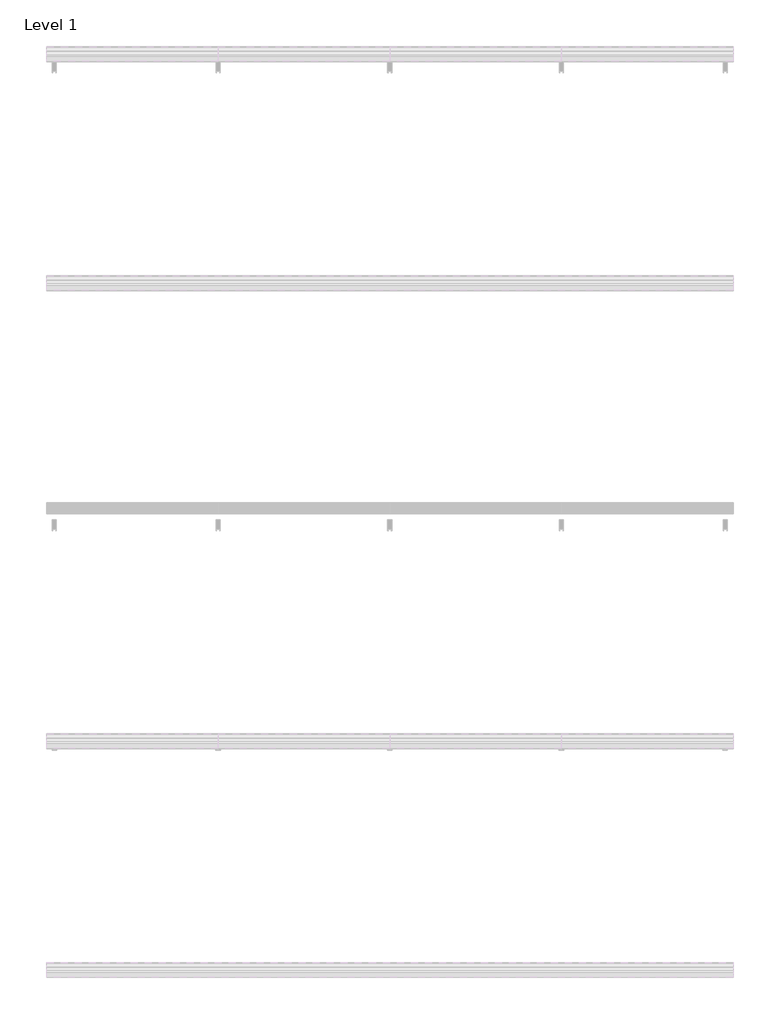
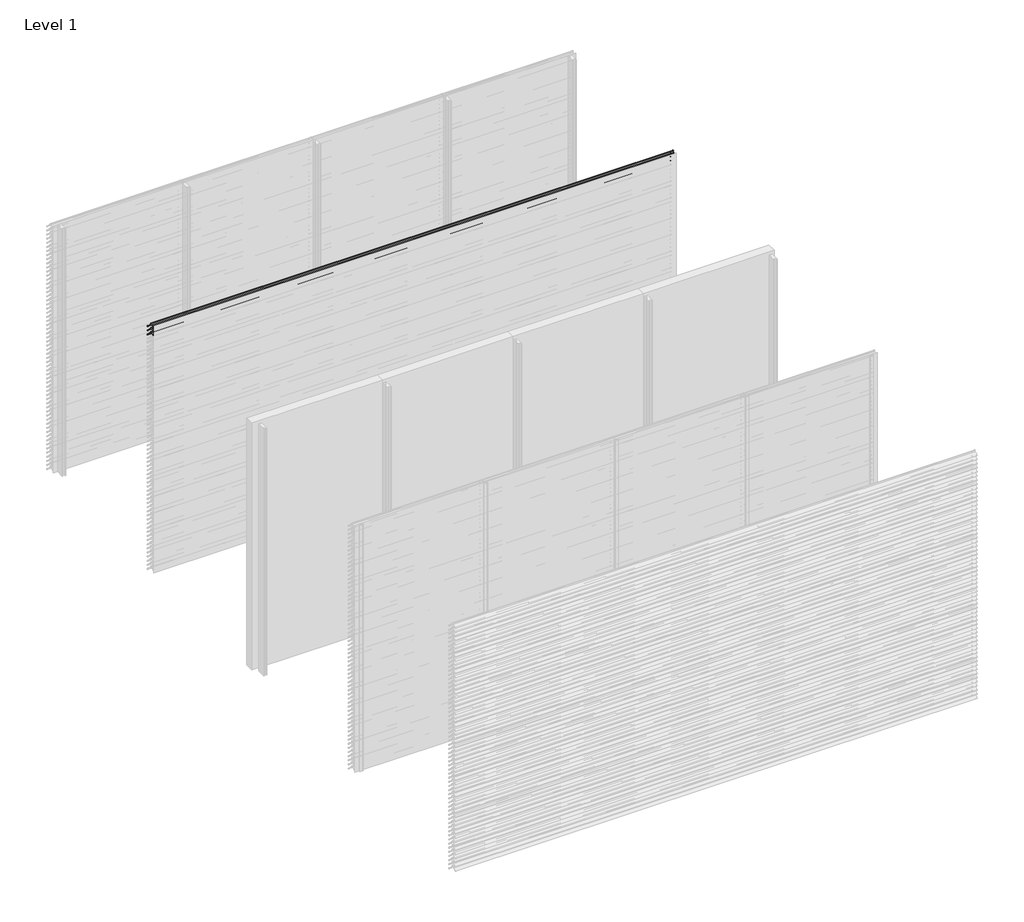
# One storey, part 105 of 173: 18 proxies.
"""IFC4 building model written with IfcOpenShell, lengths in millimetres."""

from ifc_helpers import new_model, si_unit, point, frame, frame_2d, origin, place, context, project, spatial, polyline, circle_curve, trimmed, segment, composite_curve, outline, extrude, element, save

model = new_model("IFC4")

# Units and contexts
model_context = context("Model", 3, world=origin())
ifc_project = project(units=[si_unit("LENGTHUNIT", "METRE", prefix="MILLI")], contexts=[model_context])

# Site, building, storey
site = spatial("IfcSite", under=ifc_project)
building = spatial("IfcBuilding", under=site)
storey = spatial("IfcBuildingStorey", under=building, Name="Level 1", Elevation=0.0)

# Proxies
placement = place(None, origin())
element("IfcBuildingElementProxy", 1, Name="Wall Sweeps", at=placement, inside=storey, context=model_context, shape_type="SweptSolid", body=[
    extrude(outline(composite_curve([segment(polyline([(-19998.0, 2959.1474905), (-19998.0, 2961.6227417)]), True, "CONTINUOUS"), segment(trimmed(circle_curve(frame_2d((-19951.2682172, 2916.2200208)), 65.1557103), [point((-19998.0, 2961.6227417))], [point((-19954.4014323, 2981.3003524))], False, "CARTESIAN"), True, "CONTINUOUS"), segment(polyline([(-19954.4014323, 2981.3003524), (-19934.8315836, 2981.3003524)]), True, "CONTINUOUS"), segment(trimmed(circle_curve(frame_2d((-19732.7329489, 3128.5533172)), 250.0545817), [point((-19934.8315836, 2981.3003524))], [point((-19941.4452143, 2990.8344583))], False, "CARTESIAN"), True, "CONTINUOUS"), segment(trimmed(circle_curve(frame_2d((-19953.2981792, 2985.1737835)), 13.1352966), [point((-19941.4452143, 2990.8344583))], [point((-19953.8171475, 2998.298824))], True, "CARTESIAN"), True, "CONTINUOUS"), segment(polyline([(-19953.8171475, 2998.298824), (-19953.8171475, 3000.0)]), True, "CONTINUOUS"), segment(trimmed(circle_curve(frame_2d((-19953.2981792, 2985.1737835)), 14.8352966), [point((-19953.8171475, 3000.0))], [point((-19939.9637661, 2991.6760487))], False, "CARTESIAN"), True, "CONTINUOUS"), segment(trimmed(circle_curve(frame_2d((-19732.7329489, 3128.5533172)), 248.3545817), [point((-19939.9637661, 2991.6760487))], [point((-19873.8787895, 2924.2059416))], True, "CARTESIAN"), True, "CONTINUOUS"), segment(trimmed(circle_curve(frame_2d((-19883.8147537, 2911.6649442)), 16.0), [point((-19873.8787895, 2924.2059416))], [point((-19867.8648347, 2910.4))], False, "CARTESIAN"), True, "CONTINUOUS"), segment(polyline([(-19867.8648347, 2910.4), (-19869.6712069, 2910.4)]), True, "CONTINUOUS"), segment(trimmed(circle_curve(frame_2d((-19883.8147537, 2911.6649442)), 14.2), [point((-19869.6712069, 2910.4))], [point((-19874.9518628, 2922.7594998))], True, "CARTESIAN"), True, "CONTINUOUS"), segment(trimmed(circle_curve(frame_2d((-19732.7329489, 3128.5533172)), 250.1545817), [point((-19874.9518628, 2922.7594998))], [point((-19933.7064024, 2979.6003524))], False, "CARTESIAN"), True, "CONTINUOUS"), segment(polyline([(-19933.7064024, 2979.6003524), (-19954.3602632, 2979.6003524)]), True, "CONTINUOUS"), segment(trimmed(circle_curve(frame_2d((-19951.2682172, 2916.2200208)), 63.4557103), [point((-19954.3602632, 2979.6003524))], [point((-19998.0, 2959.1474905))], True, "CARTESIAN"), True, "CONTINUOUS")], self_intersect=False)), frame((0.0, 0.0, 0.0), z_axis=(1.0, 0.0, 0.0), x_axis=(0.0, 1.0, 0.0)), (0.0, 0.0, 1.0), 6000.0),
])
element("IfcBuildingElementProxy", 2, Name="Wall Sweeps", at=placement, inside=storey, context=model_context, shape_type="SweptSolid", body=[
    extrude(outline(composite_curve([segment(polyline([(-19998.0, 2909.1474905), (-19998.0, 2911.6227417)]), True, "CONTINUOUS"), segment(trimmed(circle_curve(frame_2d((-19951.2682172, 2866.2200208)), 65.1557103), [point((-19998.0, 2911.6227417))], [point((-19954.4014323, 2931.3003524))], False, "CARTESIAN"), True, "CONTINUOUS"), segment(polyline([(-19954.4014323, 2931.3003524), (-19934.8315836, 2931.3003524)]), True, "CONTINUOUS"), segment(trimmed(circle_curve(frame_2d((-19732.7329489, 3078.5533172)), 250.0545817), [point((-19934.8315836, 2931.3003524))], [point((-19941.4452143, 2940.8344583))], False, "CARTESIAN"), True, "CONTINUOUS"), segment(trimmed(circle_curve(frame_2d((-19953.2981792, 2935.1737835)), 13.1352966), [point((-19941.4452143, 2940.8344583))], [point((-19953.8171475, 2948.298824))], True, "CARTESIAN"), True, "CONTINUOUS"), segment(polyline([(-19953.8171475, 2948.298824), (-19953.8171475, 2950.0)]), True, "CONTINUOUS"), segment(trimmed(circle_curve(frame_2d((-19953.2981792, 2935.1737835)), 14.8352966), [point((-19953.8171475, 2950.0))], [point((-19939.9637661, 2941.6760487))], False, "CARTESIAN"), True, "CONTINUOUS"), segment(trimmed(circle_curve(frame_2d((-19732.7329489, 3078.5533172)), 248.3545817), [point((-19939.9637661, 2941.6760487))], [point((-19873.8787895, 2874.2059416))], True, "CARTESIAN"), True, "CONTINUOUS"), segment(trimmed(circle_curve(frame_2d((-19883.8147537, 2861.6649442)), 16.0), [point((-19873.8787895, 2874.2059416))], [point((-19867.8648347, 2860.4))], False, "CARTESIAN"), True, "CONTINUOUS"), segment(polyline([(-19867.8648347, 2860.4), (-19869.6712069, 2860.4)]), True, "CONTINUOUS"), segment(trimmed(circle_curve(frame_2d((-19883.8147537, 2861.6649442)), 14.2), [point((-19869.6712069, 2860.4))], [point((-19874.9518628, 2872.7594998))], True, "CARTESIAN"), True, "CONTINUOUS"), segment(trimmed(circle_curve(frame_2d((-19732.7329489, 3078.5533172)), 250.1545817), [point((-19874.9518628, 2872.7594998))], [point((-19933.7064024, 2929.6003524))], False, "CARTESIAN"), True, "CONTINUOUS"), segment(polyline([(-19933.7064024, 2929.6003524), (-19954.3602632, 2929.6003524)]), True, "CONTINUOUS"), segment(trimmed(circle_curve(frame_2d((-19951.2682172, 2866.2200208)), 63.4557103), [point((-19954.3602632, 2929.6003524))], [point((-19998.0, 2909.1474905))], True, "CARTESIAN"), True, "CONTINUOUS")], self_intersect=False)), frame((0.0, 0.0, 0.0), z_axis=(1.0, 0.0, 0.0), x_axis=(0.0, 1.0, 0.0)), (0.0, 0.0, 1.0), 6000.0),
])
element("IfcBuildingElementProxy", 3, Name="Wall Sweeps", at=placement, inside=storey, context=model_context, shape_type="SweptSolid", body=[
    extrude(outline(composite_curve([segment(polyline([(-19998.0, 2859.1474905), (-19998.0, 2861.6227417)]), True, "CONTINUOUS"), segment(trimmed(circle_curve(frame_2d((-19951.2682172, 2816.2200208)), 65.1557103), [point((-19998.0, 2861.6227417))], [point((-19954.4014323, 2881.3003524))], False, "CARTESIAN"), True, "CONTINUOUS"), segment(polyline([(-19954.4014323, 2881.3003524), (-19934.8315836, 2881.3003524)]), True, "CONTINUOUS"), segment(trimmed(circle_curve(frame_2d((-19732.7329489, 3028.5533172)), 250.0545817), [point((-19934.8315836, 2881.3003524))], [point((-19941.4452143, 2890.8344583))], False, "CARTESIAN"), True, "CONTINUOUS"), segment(trimmed(circle_curve(frame_2d((-19953.2981792, 2885.1737835)), 13.1352966), [point((-19941.4452143, 2890.8344583))], [point((-19953.8171475, 2898.298824))], True, "CARTESIAN"), True, "CONTINUOUS"), segment(polyline([(-19953.8171475, 2898.298824), (-19953.8171475, 2900.0)]), True, "CONTINUOUS"), segment(trimmed(circle_curve(frame_2d((-19953.2981792, 2885.1737835)), 14.8352966), [point((-19953.8171475, 2900.0))], [point((-19939.9637661, 2891.6760487))], False, "CARTESIAN"), True, "CONTINUOUS"), segment(trimmed(circle_curve(frame_2d((-19732.7329489, 3028.5533172)), 248.3545817), [point((-19939.9637661, 2891.6760487))], [point((-19873.8787895, 2824.2059416))], True, "CARTESIAN"), True, "CONTINUOUS"), segment(trimmed(circle_curve(frame_2d((-19883.8147537, 2811.6649442)), 16.0), [point((-19873.8787895, 2824.2059416))], [point((-19867.8648347, 2810.4))], False, "CARTESIAN"), True, "CONTINUOUS"), segment(polyline([(-19867.8648347, 2810.4), (-19869.6712069, 2810.4)]), True, "CONTINUOUS"), segment(trimmed(circle_curve(frame_2d((-19883.8147537, 2811.6649442)), 14.2), [point((-19869.6712069, 2810.4))], [point((-19874.9518628, 2822.7594998))], True, "CARTESIAN"), True, "CONTINUOUS"), segment(trimmed(circle_curve(frame_2d((-19732.7329489, 3028.5533172)), 250.1545817), [point((-19874.9518628, 2822.7594998))], [point((-19933.7064024, 2879.6003524))], False, "CARTESIAN"), True, "CONTINUOUS"), segment(polyline([(-19933.7064024, 2879.6003524), (-19954.3602632, 2879.6003524)]), True, "CONTINUOUS"), segment(trimmed(circle_curve(frame_2d((-19951.2682172, 2816.2200208)), 63.4557103), [point((-19954.3602632, 2879.6003524))], [point((-19998.0, 2859.1474905))], True, "CARTESIAN"), True, "CONTINUOUS")], self_intersect=False)), frame((0.0, 0.0, 0.0), z_axis=(1.0, 0.0, 0.0), x_axis=(0.0, 1.0, 0.0)), (0.0, 0.0, 1.0), 6000.0),
])
element("IfcBuildingElementProxy", 4, Name="Wall Sweeps", at=placement, inside=storey, context=model_context, shape_type="SweptSolid", body=[
    extrude(outline(composite_curve([segment(polyline([(-23998.0, 709.1474905), (-23998.0, 711.6227417)]), True, "CONTINUOUS"), segment(trimmed(circle_curve(frame_2d((-23951.2682172, 666.2200208)), 65.1557103), [point((-23998.0, 711.6227417))], [point((-23954.4014323, 731.3003524))], False, "CARTESIAN"), True, "CONTINUOUS"), segment(polyline([(-23954.4014323, 731.3003524), (-23934.8315836, 731.3003524)]), True, "CONTINUOUS"), segment(trimmed(circle_curve(frame_2d((-23732.7329489, 878.5533172)), 250.0545817), [point((-23934.8315836, 731.3003524))], [point((-23941.4452143, 740.8344583))], False, "CARTESIAN"), True, "CONTINUOUS"), segment(trimmed(circle_curve(frame_2d((-23953.2981792, 735.1737835)), 13.1352966), [point((-23941.4452143, 740.8344583))], [point((-23953.8171475, 748.298824))], True, "CARTESIAN"), True, "CONTINUOUS"), segment(polyline([(-23953.8171475, 748.298824), (-23953.8171475, 750.0)]), True, "CONTINUOUS"), segment(trimmed(circle_curve(frame_2d((-23953.2981792, 735.1737835)), 14.8352966), [point((-23953.8171475, 750.0))], [point((-23939.9637661, 741.6760487))], False, "CARTESIAN"), True, "CONTINUOUS"), segment(trimmed(circle_curve(frame_2d((-23732.7329489, 878.5533172)), 248.3545817), [point((-23939.9637661, 741.6760487))], [point((-23873.8787895, 674.2059416))], True, "CARTESIAN"), True, "CONTINUOUS"), segment(trimmed(circle_curve(frame_2d((-23883.8147537, 661.6649442)), 16.0), [point((-23873.8787895, 674.2059416))], [point((-23867.8648347, 660.4))], False, "CARTESIAN"), True, "CONTINUOUS"), segment(polyline([(-23867.8648347, 660.4), (-23869.6712069, 660.4)]), True, "CONTINUOUS"), segment(trimmed(circle_curve(frame_2d((-23883.8147537, 661.6649442)), 14.2), [point((-23869.6712069, 660.4))], [point((-23874.9518628, 672.7594998))], True, "CARTESIAN"), True, "CONTINUOUS"), segment(trimmed(circle_curve(frame_2d((-23732.7329489, 878.5533172)), 250.1545817), [point((-23874.9518628, 672.7594998))], [point((-23933.7064024, 729.6003524))], False, "CARTESIAN"), True, "CONTINUOUS"), segment(polyline([(-23933.7064024, 729.6003524), (-23954.3602632, 729.6003524)]), True, "CONTINUOUS"), segment(trimmed(circle_curve(frame_2d((-23951.2682172, 666.2200208)), 63.4557103), [point((-23954.3602632, 729.6003524))], [point((-23998.0, 709.1474905))], True, "CARTESIAN"), True, "CONTINUOUS")], self_intersect=False)), frame((4500.0, 0.0, 0.0), z_axis=(1.0, 0.0, 0.0), x_axis=(0.0, 1.0, 0.0)), (0.0, 0.0, 1.0), 1500.0),
])
element("IfcBuildingElementProxy", 5, Name="Wall Sweeps", at=placement, inside=storey, context=model_context, shape_type="SweptSolid", body=[
    extrude(outline(composite_curve([segment(polyline([(-23998.0, 659.1474905), (-23998.0, 661.6227417)]), True, "CONTINUOUS"), segment(trimmed(circle_curve(frame_2d((-23951.2682172, 616.2200208)), 65.1557103), [point((-23998.0, 661.6227417))], [point((-23954.4014323, 681.3003524))], False, "CARTESIAN"), True, "CONTINUOUS"), segment(polyline([(-23954.4014323, 681.3003524), (-23934.8315836, 681.3003524)]), True, "CONTINUOUS"), segment(trimmed(circle_curve(frame_2d((-23732.7329489, 828.5533172)), 250.0545817), [point((-23934.8315836, 681.3003524))], [point((-23941.4452143, 690.8344583))], False, "CARTESIAN"), True, "CONTINUOUS"), segment(trimmed(circle_curve(frame_2d((-23953.2981792, 685.1737835)), 13.1352966), [point((-23941.4452143, 690.8344583))], [point((-23953.8171475, 698.298824))], True, "CARTESIAN"), True, "CONTINUOUS"), segment(polyline([(-23953.8171475, 698.298824), (-23953.8171475, 700.0)]), True, "CONTINUOUS"), segment(trimmed(circle_curve(frame_2d((-23953.2981792, 685.1737835)), 14.8352966), [point((-23953.8171475, 700.0))], [point((-23939.9637661, 691.6760487))], False, "CARTESIAN"), True, "CONTINUOUS"), segment(trimmed(circle_curve(frame_2d((-23732.7329489, 828.5533172)), 248.3545817), [point((-23939.9637661, 691.6760487))], [point((-23873.8787895, 624.2059416))], True, "CARTESIAN"), True, "CONTINUOUS"), segment(trimmed(circle_curve(frame_2d((-23883.8147537, 611.6649442)), 16.0), [point((-23873.8787895, 624.2059416))], [point((-23867.8648347, 610.4))], False, "CARTESIAN"), True, "CONTINUOUS"), segment(polyline([(-23867.8648347, 610.4), (-23869.6712069, 610.4)]), True, "CONTINUOUS"), segment(trimmed(circle_curve(frame_2d((-23883.8147537, 611.6649442)), 14.2), [point((-23869.6712069, 610.4))], [point((-23874.9518628, 622.7594998))], True, "CARTESIAN"), True, "CONTINUOUS"), segment(trimmed(circle_curve(frame_2d((-23732.7329489, 828.5533172)), 250.1545817), [point((-23874.9518628, 622.7594998))], [point((-23933.7064024, 679.6003524))], False, "CARTESIAN"), True, "CONTINUOUS"), segment(polyline([(-23933.7064024, 679.6003524), (-23954.3602632, 679.6003524)]), True, "CONTINUOUS"), segment(trimmed(circle_curve(frame_2d((-23951.2682172, 616.2200208)), 63.4557103), [point((-23954.3602632, 679.6003524))], [point((-23998.0, 659.1474905))], True, "CARTESIAN"), True, "CONTINUOUS")], self_intersect=False)), frame((4500.0, 0.0, 0.0), z_axis=(1.0, 0.0, 0.0), x_axis=(0.0, 1.0, 0.0)), (0.0, 0.0, 1.0), 1500.0),
])
element("IfcBuildingElementProxy", 6, Name="Wall Sweeps", at=placement, inside=storey, context=model_context, shape_type="SweptSolid", body=[
    extrude(outline(composite_curve([segment(polyline([(-23998.0, 609.1474905), (-23998.0, 611.6227417)]), True, "CONTINUOUS"), segment(trimmed(circle_curve(frame_2d((-23951.2682172, 566.2200208)), 65.1557103), [point((-23998.0, 611.6227417))], [point((-23954.4014323, 631.3003524))], False, "CARTESIAN"), True, "CONTINUOUS"), segment(polyline([(-23954.4014323, 631.3003524), (-23934.8315836, 631.3003524)]), True, "CONTINUOUS"), segment(trimmed(circle_curve(frame_2d((-23732.7329489, 778.5533172)), 250.0545817), [point((-23934.8315836, 631.3003524))], [point((-23941.4452143, 640.8344583))], False, "CARTESIAN"), True, "CONTINUOUS"), segment(trimmed(circle_curve(frame_2d((-23953.2981792, 635.1737835)), 13.1352966), [point((-23941.4452143, 640.8344583))], [point((-23953.8171475, 648.298824))], True, "CARTESIAN"), True, "CONTINUOUS"), segment(polyline([(-23953.8171475, 648.298824), (-23953.8171475, 650.0)]), True, "CONTINUOUS"), segment(trimmed(circle_curve(frame_2d((-23953.2981792, 635.1737835)), 14.8352966), [point((-23953.8171475, 650.0))], [point((-23939.9637661, 641.6760487))], False, "CARTESIAN"), True, "CONTINUOUS"), segment(trimmed(circle_curve(frame_2d((-23732.7329489, 778.5533172)), 248.3545817), [point((-23939.9637661, 641.6760487))], [point((-23873.8787895, 574.2059416))], True, "CARTESIAN"), True, "CONTINUOUS"), segment(trimmed(circle_curve(frame_2d((-23883.8147537, 561.6649442)), 16.0), [point((-23873.8787895, 574.2059416))], [point((-23867.8648347, 560.4))], False, "CARTESIAN"), True, "CONTINUOUS"), segment(polyline([(-23867.8648347, 560.4), (-23869.6712069, 560.4)]), True, "CONTINUOUS"), segment(trimmed(circle_curve(frame_2d((-23883.8147537, 561.6649442)), 14.2), [point((-23869.6712069, 560.4))], [point((-23874.9518628, 572.7594998))], True, "CARTESIAN"), True, "CONTINUOUS"), segment(trimmed(circle_curve(frame_2d((-23732.7329489, 778.5533172)), 250.1545817), [point((-23874.9518628, 572.7594998))], [point((-23933.7064024, 629.6003524))], False, "CARTESIAN"), True, "CONTINUOUS"), segment(polyline([(-23933.7064024, 629.6003524), (-23954.3602632, 629.6003524)]), True, "CONTINUOUS"), segment(trimmed(circle_curve(frame_2d((-23951.2682172, 566.2200208)), 63.4557103), [point((-23954.3602632, 629.6003524))], [point((-23998.0, 609.1474905))], True, "CARTESIAN"), True, "CONTINUOUS")], self_intersect=False)), frame((4500.0, 0.0, 0.0), z_axis=(1.0, 0.0, 0.0), x_axis=(0.0, 1.0, 0.0)), (0.0, 0.0, 1.0), 1500.0),
])
element("IfcBuildingElementProxy", 7, Name="Wall Sweeps", at=placement, inside=storey, context=model_context, shape_type="SweptSolid", body=[
    extrude(outline(composite_curve([segment(polyline([(-23998.0, 559.1474905), (-23998.0, 561.6227417)]), True, "CONTINUOUS"), segment(trimmed(circle_curve(frame_2d((-23951.2682172, 516.2200208)), 65.1557103), [point((-23998.0, 561.6227417))], [point((-23954.4014323, 581.3003524))], False, "CARTESIAN"), True, "CONTINUOUS"), segment(polyline([(-23954.4014323, 581.3003524), (-23934.8315836, 581.3003524)]), True, "CONTINUOUS"), segment(trimmed(circle_curve(frame_2d((-23732.7329489, 728.5533172)), 250.0545817), [point((-23934.8315836, 581.3003524))], [point((-23941.4452143, 590.8344583))], False, "CARTESIAN"), True, "CONTINUOUS"), segment(trimmed(circle_curve(frame_2d((-23953.2981792, 585.1737835)), 13.1352966), [point((-23941.4452143, 590.8344583))], [point((-23953.8171475, 598.298824))], True, "CARTESIAN"), True, "CONTINUOUS"), segment(polyline([(-23953.8171475, 598.298824), (-23953.8171475, 600.0)]), True, "CONTINUOUS"), segment(trimmed(circle_curve(frame_2d((-23953.2981792, 585.1737835)), 14.8352966), [point((-23953.8171475, 600.0))], [point((-23939.9637661, 591.6760487))], False, "CARTESIAN"), True, "CONTINUOUS"), segment(trimmed(circle_curve(frame_2d((-23732.7329489, 728.5533172)), 248.3545817), [point((-23939.9637661, 591.6760487))], [point((-23873.8787895, 524.2059416))], True, "CARTESIAN"), True, "CONTINUOUS"), segment(trimmed(circle_curve(frame_2d((-23883.8147537, 511.6649442)), 16.0), [point((-23873.8787895, 524.2059416))], [point((-23867.8648347, 510.4))], False, "CARTESIAN"), True, "CONTINUOUS"), segment(polyline([(-23867.8648347, 510.4), (-23869.6712069, 510.4)]), True, "CONTINUOUS"), segment(trimmed(circle_curve(frame_2d((-23883.8147537, 511.6649442)), 14.2), [point((-23869.6712069, 510.4))], [point((-23874.9518628, 522.7594998))], True, "CARTESIAN"), True, "CONTINUOUS"), segment(trimmed(circle_curve(frame_2d((-23732.7329489, 728.5533172)), 250.1545817), [point((-23874.9518628, 522.7594998))], [point((-23933.7064024, 579.6003524))], False, "CARTESIAN"), True, "CONTINUOUS"), segment(polyline([(-23933.7064024, 579.6003524), (-23954.3602632, 579.6003524)]), True, "CONTINUOUS"), segment(trimmed(circle_curve(frame_2d((-23951.2682172, 516.2200208)), 63.4557103), [point((-23954.3602632, 579.6003524))], [point((-23998.0, 559.1474905))], True, "CARTESIAN"), True, "CONTINUOUS")], self_intersect=False)), frame((4500.0, 0.0, 0.0), z_axis=(1.0, 0.0, 0.0), x_axis=(0.0, 1.0, 0.0)), (0.0, 0.0, 1.0), 1500.0),
])
element("IfcBuildingElementProxy", 8, Name="Wall Sweeps", at=placement, inside=storey, context=model_context, shape_type="SweptSolid", body=[
    extrude(outline(composite_curve([segment(polyline([(-23998.0, 509.1474905), (-23998.0, 511.6227417)]), True, "CONTINUOUS"), segment(trimmed(circle_curve(frame_2d((-23951.2682172, 466.2200208)), 65.1557103), [point((-23998.0, 511.6227417))], [point((-23954.4014323, 531.3003524))], False, "CARTESIAN"), True, "CONTINUOUS"), segment(polyline([(-23954.4014323, 531.3003524), (-23934.8315836, 531.3003524)]), True, "CONTINUOUS"), segment(trimmed(circle_curve(frame_2d((-23732.7329489, 678.5533172)), 250.0545817), [point((-23934.8315836, 531.3003524))], [point((-23941.4452143, 540.8344583))], False, "CARTESIAN"), True, "CONTINUOUS"), segment(trimmed(circle_curve(frame_2d((-23953.2981792, 535.1737835)), 13.1352966), [point((-23941.4452143, 540.8344583))], [point((-23953.8171475, 548.298824))], True, "CARTESIAN"), True, "CONTINUOUS"), segment(polyline([(-23953.8171475, 548.298824), (-23953.8171475, 550.0)]), True, "CONTINUOUS"), segment(trimmed(circle_curve(frame_2d((-23953.2981792, 535.1737835)), 14.8352966), [point((-23953.8171475, 550.0))], [point((-23939.9637661, 541.6760487))], False, "CARTESIAN"), True, "CONTINUOUS"), segment(trimmed(circle_curve(frame_2d((-23732.7329489, 678.5533172)), 248.3545817), [point((-23939.9637661, 541.6760487))], [point((-23873.8787895, 474.2059416))], True, "CARTESIAN"), True, "CONTINUOUS"), segment(trimmed(circle_curve(frame_2d((-23883.8147537, 461.6649442)), 16.0), [point((-23873.8787895, 474.2059416))], [point((-23867.8648347, 460.4))], False, "CARTESIAN"), True, "CONTINUOUS"), segment(polyline([(-23867.8648347, 460.4), (-23869.6712069, 460.4)]), True, "CONTINUOUS"), segment(trimmed(circle_curve(frame_2d((-23883.8147537, 461.6649442)), 14.2), [point((-23869.6712069, 460.4))], [point((-23874.9518628, 472.7594998))], True, "CARTESIAN"), True, "CONTINUOUS"), segment(trimmed(circle_curve(frame_2d((-23732.7329489, 678.5533172)), 250.1545817), [point((-23874.9518628, 472.7594998))], [point((-23933.7064024, 529.6003524))], False, "CARTESIAN"), True, "CONTINUOUS"), segment(polyline([(-23933.7064024, 529.6003524), (-23954.3602632, 529.6003524)]), True, "CONTINUOUS"), segment(trimmed(circle_curve(frame_2d((-23951.2682172, 466.2200208)), 63.4557103), [point((-23954.3602632, 529.6003524))], [point((-23998.0, 509.1474905))], True, "CARTESIAN"), True, "CONTINUOUS")], self_intersect=False)), frame((4500.0, 0.0, 0.0), z_axis=(1.0, 0.0, 0.0), x_axis=(0.0, 1.0, 0.0)), (0.0, 0.0, 1.0), 1500.0),
])
element("IfcBuildingElementProxy", 9, Name="Wall Sweeps", at=placement, inside=storey, context=model_context, shape_type="SweptSolid", body=[
    extrude(outline(composite_curve([segment(polyline([(-23998.0, 459.1474905), (-23998.0, 461.6227417)]), True, "CONTINUOUS"), segment(trimmed(circle_curve(frame_2d((-23951.2682172, 416.2200208)), 65.1557103), [point((-23998.0, 461.6227417))], [point((-23954.4014323, 481.3003524))], False, "CARTESIAN"), True, "CONTINUOUS"), segment(polyline([(-23954.4014323, 481.3003524), (-23934.8315836, 481.3003524)]), True, "CONTINUOUS"), segment(trimmed(circle_curve(frame_2d((-23732.7329489, 628.5533172)), 250.0545817), [point((-23934.8315836, 481.3003524))], [point((-23941.4452143, 490.8344583))], False, "CARTESIAN"), True, "CONTINUOUS"), segment(trimmed(circle_curve(frame_2d((-23953.2981792, 485.1737835)), 13.1352966), [point((-23941.4452143, 490.8344583))], [point((-23953.8171475, 498.298824))], True, "CARTESIAN"), True, "CONTINUOUS"), segment(polyline([(-23953.8171475, 498.298824), (-23953.8171475, 500.0)]), True, "CONTINUOUS"), segment(trimmed(circle_curve(frame_2d((-23953.2981792, 485.1737835)), 14.8352966), [point((-23953.8171475, 500.0))], [point((-23939.9637661, 491.6760487))], False, "CARTESIAN"), True, "CONTINUOUS"), segment(trimmed(circle_curve(frame_2d((-23732.7329489, 628.5533172)), 248.3545817), [point((-23939.9637661, 491.6760487))], [point((-23873.8787895, 424.2059416))], True, "CARTESIAN"), True, "CONTINUOUS"), segment(trimmed(circle_curve(frame_2d((-23883.8147537, 411.6649442)), 16.0), [point((-23873.8787895, 424.2059416))], [point((-23867.8648347, 410.4))], False, "CARTESIAN"), True, "CONTINUOUS"), segment(polyline([(-23867.8648347, 410.4), (-23869.6712069, 410.4)]), True, "CONTINUOUS"), segment(trimmed(circle_curve(frame_2d((-23883.8147537, 411.6649442)), 14.2), [point((-23869.6712069, 410.4))], [point((-23874.9518628, 422.7594998))], True, "CARTESIAN"), True, "CONTINUOUS"), segment(trimmed(circle_curve(frame_2d((-23732.7329489, 628.5533172)), 250.1545817), [point((-23874.9518628, 422.7594998))], [point((-23933.7064024, 479.6003524))], False, "CARTESIAN"), True, "CONTINUOUS"), segment(polyline([(-23933.7064024, 479.6003524), (-23954.3602632, 479.6003524)]), True, "CONTINUOUS"), segment(trimmed(circle_curve(frame_2d((-23951.2682172, 416.2200208)), 63.4557103), [point((-23954.3602632, 479.6003524))], [point((-23998.0, 459.1474905))], True, "CARTESIAN"), True, "CONTINUOUS")], self_intersect=False)), frame((4500.0, 0.0, 0.0), z_axis=(1.0, 0.0, 0.0), x_axis=(0.0, 1.0, 0.0)), (0.0, 0.0, 1.0), 1500.0),
])
element("IfcBuildingElementProxy", 10, Name="Wall Sweeps", at=placement, inside=storey, context=model_context, shape_type="SweptSolid", body=[
    extrude(outline(composite_curve([segment(polyline([(-23998.0, 409.1474905), (-23998.0, 411.6227417)]), True, "CONTINUOUS"), segment(trimmed(circle_curve(frame_2d((-23951.2682172, 366.2200208)), 65.1557103), [point((-23998.0, 411.6227417))], [point((-23954.4014323, 431.3003524))], False, "CARTESIAN"), True, "CONTINUOUS"), segment(polyline([(-23954.4014323, 431.3003524), (-23934.8315836, 431.3003524)]), True, "CONTINUOUS"), segment(trimmed(circle_curve(frame_2d((-23732.7329489, 578.5533172)), 250.0545817), [point((-23934.8315836, 431.3003524))], [point((-23941.4452143, 440.8344583))], False, "CARTESIAN"), True, "CONTINUOUS"), segment(trimmed(circle_curve(frame_2d((-23953.2981792, 435.1737835)), 13.1352966), [point((-23941.4452143, 440.8344583))], [point((-23953.8171475, 448.298824))], True, "CARTESIAN"), True, "CONTINUOUS"), segment(polyline([(-23953.8171475, 448.298824), (-23953.8171475, 450.0)]), True, "CONTINUOUS"), segment(trimmed(circle_curve(frame_2d((-23953.2981792, 435.1737835)), 14.8352966), [point((-23953.8171475, 450.0))], [point((-23939.9637661, 441.6760487))], False, "CARTESIAN"), True, "CONTINUOUS"), segment(trimmed(circle_curve(frame_2d((-23732.7329489, 578.5533172)), 248.3545817), [point((-23939.9637661, 441.6760487))], [point((-23873.8787895, 374.2059416))], True, "CARTESIAN"), True, "CONTINUOUS"), segment(trimmed(circle_curve(frame_2d((-23883.8147537, 361.6649442)), 16.0), [point((-23873.8787895, 374.2059416))], [point((-23867.8648347, 360.4))], False, "CARTESIAN"), True, "CONTINUOUS"), segment(polyline([(-23867.8648347, 360.4), (-23869.6712069, 360.4)]), True, "CONTINUOUS"), segment(trimmed(circle_curve(frame_2d((-23883.8147537, 361.6649442)), 14.2), [point((-23869.6712069, 360.4))], [point((-23874.9518628, 372.7594998))], True, "CARTESIAN"), True, "CONTINUOUS"), segment(trimmed(circle_curve(frame_2d((-23732.7329489, 578.5533172)), 250.1545817), [point((-23874.9518628, 372.7594998))], [point((-23933.7064024, 429.6003524))], False, "CARTESIAN"), True, "CONTINUOUS"), segment(polyline([(-23933.7064024, 429.6003524), (-23954.3602632, 429.6003524)]), True, "CONTINUOUS"), segment(trimmed(circle_curve(frame_2d((-23951.2682172, 366.2200208)), 63.4557103), [point((-23954.3602632, 429.6003524))], [point((-23998.0, 409.1474905))], True, "CARTESIAN"), True, "CONTINUOUS")], self_intersect=False)), frame((4500.0, 0.0, 0.0), z_axis=(1.0, 0.0, 0.0), x_axis=(0.0, 1.0, 0.0)), (0.0, 0.0, 1.0), 1500.0),
])
element("IfcBuildingElementProxy", 11, Name="Wall Sweeps", at=placement, inside=storey, context=model_context, shape_type="SweptSolid", body=[
    extrude(outline(composite_curve([segment(polyline([(-23998.0, 359.1474905), (-23998.0, 361.6227417)]), True, "CONTINUOUS"), segment(trimmed(circle_curve(frame_2d((-23951.2682172, 316.2200208)), 65.1557103), [point((-23998.0, 361.6227417))], [point((-23954.4014323, 381.3003524))], False, "CARTESIAN"), True, "CONTINUOUS"), segment(polyline([(-23954.4014323, 381.3003524), (-23934.8315836, 381.3003524)]), True, "CONTINUOUS"), segment(trimmed(circle_curve(frame_2d((-23732.7329489, 528.5533172)), 250.0545817), [point((-23934.8315836, 381.3003524))], [point((-23941.4452143, 390.8344583))], False, "CARTESIAN"), True, "CONTINUOUS"), segment(trimmed(circle_curve(frame_2d((-23953.2981792, 385.1737835)), 13.1352966), [point((-23941.4452143, 390.8344583))], [point((-23953.8171475, 398.298824))], True, "CARTESIAN"), True, "CONTINUOUS"), segment(polyline([(-23953.8171475, 398.298824), (-23953.8171475, 400.0)]), True, "CONTINUOUS"), segment(trimmed(circle_curve(frame_2d((-23953.2981792, 385.1737835)), 14.8352966), [point((-23953.8171475, 400.0))], [point((-23939.9637661, 391.6760487))], False, "CARTESIAN"), True, "CONTINUOUS"), segment(trimmed(circle_curve(frame_2d((-23732.7329489, 528.5533172)), 248.3545817), [point((-23939.9637661, 391.6760487))], [point((-23873.8787895, 324.2059416))], True, "CARTESIAN"), True, "CONTINUOUS"), segment(trimmed(circle_curve(frame_2d((-23883.8147537, 311.6649442)), 16.0), [point((-23873.8787895, 324.2059416))], [point((-23867.8648347, 310.4))], False, "CARTESIAN"), True, "CONTINUOUS"), segment(polyline([(-23867.8648347, 310.4), (-23869.6712069, 310.4)]), True, "CONTINUOUS"), segment(trimmed(circle_curve(frame_2d((-23883.8147537, 311.6649442)), 14.2), [point((-23869.6712069, 310.4))], [point((-23874.9518628, 322.7594998))], True, "CARTESIAN"), True, "CONTINUOUS"), segment(trimmed(circle_curve(frame_2d((-23732.7329489, 528.5533172)), 250.1545817), [point((-23874.9518628, 322.7594998))], [point((-23933.7064024, 379.6003524))], False, "CARTESIAN"), True, "CONTINUOUS"), segment(polyline([(-23933.7064024, 379.6003524), (-23954.3602632, 379.6003524)]), True, "CONTINUOUS"), segment(trimmed(circle_curve(frame_2d((-23951.2682172, 316.2200208)), 63.4557103), [point((-23954.3602632, 379.6003524))], [point((-23998.0, 359.1474905))], True, "CARTESIAN"), True, "CONTINUOUS")], self_intersect=False)), frame((4500.0, 0.0, 0.0), z_axis=(1.0, 0.0, 0.0), x_axis=(0.0, 1.0, 0.0)), (0.0, 0.0, 1.0), 1500.0),
])
element("IfcBuildingElementProxy", 12, Name="Wall Sweeps", at=placement, inside=storey, context=model_context, shape_type="SweptSolid", body=[
    extrude(outline(composite_curve([segment(polyline([(-23998.0, 309.1474905), (-23998.0, 311.6227417)]), True, "CONTINUOUS"), segment(trimmed(circle_curve(frame_2d((-23951.2682172, 266.2200208)), 65.1557103), [point((-23998.0, 311.6227417))], [point((-23954.4014323, 331.3003524))], False, "CARTESIAN"), True, "CONTINUOUS"), segment(polyline([(-23954.4014323, 331.3003524), (-23934.8315836, 331.3003524)]), True, "CONTINUOUS"), segment(trimmed(circle_curve(frame_2d((-23732.7329489, 478.5533172)), 250.0545817), [point((-23934.8315836, 331.3003524))], [point((-23941.4452143, 340.8344583))], False, "CARTESIAN"), True, "CONTINUOUS"), segment(trimmed(circle_curve(frame_2d((-23953.2981792, 335.1737835)), 13.1352966), [point((-23941.4452143, 340.8344583))], [point((-23953.8171475, 348.298824))], True, "CARTESIAN"), True, "CONTINUOUS"), segment(polyline([(-23953.8171475, 348.298824), (-23953.8171475, 350.0)]), True, "CONTINUOUS"), segment(trimmed(circle_curve(frame_2d((-23953.2981792, 335.1737835)), 14.8352966), [point((-23953.8171475, 350.0))], [point((-23939.9637661, 341.6760487))], False, "CARTESIAN"), True, "CONTINUOUS"), segment(trimmed(circle_curve(frame_2d((-23732.7329489, 478.5533172)), 248.3545817), [point((-23939.9637661, 341.6760487))], [point((-23873.8787895, 274.2059416))], True, "CARTESIAN"), True, "CONTINUOUS"), segment(trimmed(circle_curve(frame_2d((-23883.8147537, 261.6649442)), 16.0), [point((-23873.8787895, 274.2059416))], [point((-23867.8648347, 260.4))], False, "CARTESIAN"), True, "CONTINUOUS"), segment(polyline([(-23867.8648347, 260.4), (-23869.6712069, 260.4)]), True, "CONTINUOUS"), segment(trimmed(circle_curve(frame_2d((-23883.8147537, 261.6649442)), 14.2), [point((-23869.6712069, 260.4))], [point((-23874.9518628, 272.7594998))], True, "CARTESIAN"), True, "CONTINUOUS"), segment(trimmed(circle_curve(frame_2d((-23732.7329489, 478.5533172)), 250.1545817), [point((-23874.9518628, 272.7594998))], [point((-23933.7064024, 329.6003524))], False, "CARTESIAN"), True, "CONTINUOUS"), segment(polyline([(-23933.7064024, 329.6003524), (-23954.3602632, 329.6003524)]), True, "CONTINUOUS"), segment(trimmed(circle_curve(frame_2d((-23951.2682172, 266.2200208)), 63.4557103), [point((-23954.3602632, 329.6003524))], [point((-23998.0, 309.1474905))], True, "CARTESIAN"), True, "CONTINUOUS")], self_intersect=False)), frame((4500.0, 0.0, 0.0), z_axis=(1.0, 0.0, 0.0), x_axis=(0.0, 1.0, 0.0)), (0.0, 0.0, 1.0), 1500.0),
])
element("IfcBuildingElementProxy", 13, Name="Wall Sweeps", at=placement, inside=storey, context=model_context, shape_type="SweptSolid", body=[
    extrude(outline(composite_curve([segment(polyline([(-23998.0, 259.1474905), (-23998.0, 261.6227417)]), True, "CONTINUOUS"), segment(trimmed(circle_curve(frame_2d((-23951.2682172, 216.2200208)), 65.1557103), [point((-23998.0, 261.6227417))], [point((-23954.4014323, 281.3003524))], False, "CARTESIAN"), True, "CONTINUOUS"), segment(polyline([(-23954.4014323, 281.3003524), (-23934.8315836, 281.3003524)]), True, "CONTINUOUS"), segment(trimmed(circle_curve(frame_2d((-23732.7329489, 428.5533172)), 250.0545817), [point((-23934.8315836, 281.3003524))], [point((-23941.4452143, 290.8344583))], False, "CARTESIAN"), True, "CONTINUOUS"), segment(trimmed(circle_curve(frame_2d((-23953.2981792, 285.1737835)), 13.1352966), [point((-23941.4452143, 290.8344583))], [point((-23953.8171475, 298.298824))], True, "CARTESIAN"), True, "CONTINUOUS"), segment(polyline([(-23953.8171475, 298.298824), (-23953.8171475, 300.0)]), True, "CONTINUOUS"), segment(trimmed(circle_curve(frame_2d((-23953.2981792, 285.1737835)), 14.8352966), [point((-23953.8171475, 300.0))], [point((-23939.9637661, 291.6760487))], False, "CARTESIAN"), True, "CONTINUOUS"), segment(trimmed(circle_curve(frame_2d((-23732.7329489, 428.5533172)), 248.3545817), [point((-23939.9637661, 291.6760487))], [point((-23873.8787895, 224.2059416))], True, "CARTESIAN"), True, "CONTINUOUS"), segment(trimmed(circle_curve(frame_2d((-23883.8147537, 211.6649442)), 16.0), [point((-23873.8787895, 224.2059416))], [point((-23867.8648347, 210.4))], False, "CARTESIAN"), True, "CONTINUOUS"), segment(polyline([(-23867.8648347, 210.4), (-23869.6712069, 210.4)]), True, "CONTINUOUS"), segment(trimmed(circle_curve(frame_2d((-23883.8147537, 211.6649442)), 14.2), [point((-23869.6712069, 210.4))], [point((-23874.9518628, 222.7594998))], True, "CARTESIAN"), True, "CONTINUOUS"), segment(trimmed(circle_curve(frame_2d((-23732.7329489, 428.5533172)), 250.1545817), [point((-23874.9518628, 222.7594998))], [point((-23933.7064024, 279.6003524))], False, "CARTESIAN"), True, "CONTINUOUS"), segment(polyline([(-23933.7064024, 279.6003524), (-23954.3602632, 279.6003524)]), True, "CONTINUOUS"), segment(trimmed(circle_curve(frame_2d((-23951.2682172, 216.2200208)), 63.4557103), [point((-23954.3602632, 279.6003524))], [point((-23998.0, 259.1474905))], True, "CARTESIAN"), True, "CONTINUOUS")], self_intersect=False)), frame((4500.0, 0.0, 0.0), z_axis=(1.0, 0.0, 0.0), x_axis=(0.0, 1.0, 0.0)), (0.0, 0.0, 1.0), 1500.0),
])
element("IfcBuildingElementProxy", 14, Name="Wall Sweeps", at=placement, inside=storey, context=model_context, shape_type="SweptSolid", body=[
    extrude(outline(composite_curve([segment(polyline([(-23998.0, 209.1474905), (-23998.0, 211.6227417)]), True, "CONTINUOUS"), segment(trimmed(circle_curve(frame_2d((-23951.2682172, 166.2200208)), 65.1557103), [point((-23998.0, 211.6227417))], [point((-23954.4014323, 231.3003524))], False, "CARTESIAN"), True, "CONTINUOUS"), segment(polyline([(-23954.4014323, 231.3003524), (-23934.8315836, 231.3003524)]), True, "CONTINUOUS"), segment(trimmed(circle_curve(frame_2d((-23732.7329489, 378.5533172)), 250.0545817), [point((-23934.8315836, 231.3003524))], [point((-23941.4452143, 240.8344583))], False, "CARTESIAN"), True, "CONTINUOUS"), segment(trimmed(circle_curve(frame_2d((-23953.2981792, 235.1737835)), 13.1352966), [point((-23941.4452143, 240.8344583))], [point((-23953.8171475, 248.298824))], True, "CARTESIAN"), True, "CONTINUOUS"), segment(polyline([(-23953.8171475, 248.298824), (-23953.8171475, 250.0)]), True, "CONTINUOUS"), segment(trimmed(circle_curve(frame_2d((-23953.2981792, 235.1737835)), 14.8352966), [point((-23953.8171475, 250.0))], [point((-23939.9637661, 241.6760487))], False, "CARTESIAN"), True, "CONTINUOUS"), segment(trimmed(circle_curve(frame_2d((-23732.7329489, 378.5533172)), 248.3545817), [point((-23939.9637661, 241.6760487))], [point((-23873.8787895, 174.2059416))], True, "CARTESIAN"), True, "CONTINUOUS"), segment(trimmed(circle_curve(frame_2d((-23883.8147537, 161.6649442)), 16.0), [point((-23873.8787895, 174.2059416))], [point((-23867.8648347, 160.4))], False, "CARTESIAN"), True, "CONTINUOUS"), segment(polyline([(-23867.8648347, 160.4), (-23869.6712069, 160.4)]), True, "CONTINUOUS"), segment(trimmed(circle_curve(frame_2d((-23883.8147537, 161.6649442)), 14.2), [point((-23869.6712069, 160.4))], [point((-23874.9518628, 172.7594998))], True, "CARTESIAN"), True, "CONTINUOUS"), segment(trimmed(circle_curve(frame_2d((-23732.7329489, 378.5533172)), 250.1545817), [point((-23874.9518628, 172.7594998))], [point((-23933.7064024, 229.6003524))], False, "CARTESIAN"), True, "CONTINUOUS"), segment(polyline([(-23933.7064024, 229.6003524), (-23954.3602632, 229.6003524)]), True, "CONTINUOUS"), segment(trimmed(circle_curve(frame_2d((-23951.2682172, 166.2200208)), 63.4557103), [point((-23954.3602632, 229.6003524))], [point((-23998.0, 209.1474905))], True, "CARTESIAN"), True, "CONTINUOUS")], self_intersect=False)), frame((4500.0, 0.0, 0.0), z_axis=(1.0, 0.0, 0.0), x_axis=(0.0, 1.0, 0.0)), (0.0, 0.0, 1.0), 1500.0),
])
element("IfcBuildingElementProxy", 15, Name="Wall Sweeps", at=placement, inside=storey, context=model_context, shape_type="SweptSolid", body=[
    extrude(outline(composite_curve([segment(polyline([(-23998.0, 159.1474905), (-23998.0, 161.6227417)]), True, "CONTINUOUS"), segment(trimmed(circle_curve(frame_2d((-23951.2682172, 116.2200208)), 65.1557103), [point((-23998.0, 161.6227417))], [point((-23954.4014323, 181.3003524))], False, "CARTESIAN"), True, "CONTINUOUS"), segment(polyline([(-23954.4014323, 181.3003524), (-23934.8315836, 181.3003524)]), True, "CONTINUOUS"), segment(trimmed(circle_curve(frame_2d((-23732.7329489, 328.5533172)), 250.0545817), [point((-23934.8315836, 181.3003524))], [point((-23941.4452143, 190.8344583))], False, "CARTESIAN"), True, "CONTINUOUS"), segment(trimmed(circle_curve(frame_2d((-23953.2981792, 185.1737835)), 13.1352966), [point((-23941.4452143, 190.8344583))], [point((-23953.8171475, 198.298824))], True, "CARTESIAN"), True, "CONTINUOUS"), segment(polyline([(-23953.8171475, 198.298824), (-23953.8171475, 200.0)]), True, "CONTINUOUS"), segment(trimmed(circle_curve(frame_2d((-23953.2981792, 185.1737835)), 14.8352966), [point((-23953.8171475, 200.0))], [point((-23939.9637661, 191.6760487))], False, "CARTESIAN"), True, "CONTINUOUS"), segment(trimmed(circle_curve(frame_2d((-23732.7329489, 328.5533172)), 248.3545817), [point((-23939.9637661, 191.6760487))], [point((-23873.8787895, 124.2059416))], True, "CARTESIAN"), True, "CONTINUOUS"), segment(trimmed(circle_curve(frame_2d((-23883.8147537, 111.6649442)), 16.0), [point((-23873.8787895, 124.2059416))], [point((-23867.8648347, 110.4))], False, "CARTESIAN"), True, "CONTINUOUS"), segment(polyline([(-23867.8648347, 110.4), (-23869.6712069, 110.4)]), True, "CONTINUOUS"), segment(trimmed(circle_curve(frame_2d((-23883.8147537, 111.6649442)), 14.2), [point((-23869.6712069, 110.4))], [point((-23874.9518628, 122.7594998))], True, "CARTESIAN"), True, "CONTINUOUS"), segment(trimmed(circle_curve(frame_2d((-23732.7329489, 328.5533172)), 250.1545817), [point((-23874.9518628, 122.7594998))], [point((-23933.7064024, 179.6003524))], False, "CARTESIAN"), True, "CONTINUOUS"), segment(polyline([(-23933.7064024, 179.6003524), (-23954.3602632, 179.6003524)]), True, "CONTINUOUS"), segment(trimmed(circle_curve(frame_2d((-23951.2682172, 116.2200208)), 63.4557103), [point((-23954.3602632, 179.6003524))], [point((-23998.0, 159.1474905))], True, "CARTESIAN"), True, "CONTINUOUS")], self_intersect=False)), frame((4500.0, 0.0, 0.0), z_axis=(1.0, 0.0, 0.0), x_axis=(0.0, 1.0, 0.0)), (0.0, 0.0, 1.0), 1500.0),
])
element("IfcBuildingElementProxy", 16, Name="Wall Sweeps", at=placement, inside=storey, context=model_context, shape_type="SweptSolid", body=[
    extrude(outline(composite_curve([segment(polyline([(-23998.0, 109.1474905), (-23998.0, 111.6227417)]), True, "CONTINUOUS"), segment(trimmed(circle_curve(frame_2d((-23951.2682172, 66.2200208)), 65.1557103), [point((-23998.0, 111.6227417))], [point((-23954.4014323, 131.3003524))], False, "CARTESIAN"), True, "CONTINUOUS"), segment(polyline([(-23954.4014323, 131.3003524), (-23934.8315836, 131.3003524)]), True, "CONTINUOUS"), segment(trimmed(circle_curve(frame_2d((-23732.7329489, 278.5533172)), 250.0545817), [point((-23934.8315836, 131.3003524))], [point((-23941.4452143, 140.8344583))], False, "CARTESIAN"), True, "CONTINUOUS"), segment(trimmed(circle_curve(frame_2d((-23953.2981792, 135.1737835)), 13.1352966), [point((-23941.4452143, 140.8344583))], [point((-23953.8171475, 148.298824))], True, "CARTESIAN"), True, "CONTINUOUS"), segment(polyline([(-23953.8171475, 148.298824), (-23953.8171475, 150.0)]), True, "CONTINUOUS"), segment(trimmed(circle_curve(frame_2d((-23953.2981792, 135.1737835)), 14.8352966), [point((-23953.8171475, 150.0))], [point((-23939.9637661, 141.6760487))], False, "CARTESIAN"), True, "CONTINUOUS"), segment(trimmed(circle_curve(frame_2d((-23732.7329489, 278.5533172)), 248.3545817), [point((-23939.9637661, 141.6760487))], [point((-23873.8787895, 74.2059416))], True, "CARTESIAN"), True, "CONTINUOUS"), segment(trimmed(circle_curve(frame_2d((-23883.8147537, 61.6649442)), 16.0), [point((-23873.8787895, 74.2059416))], [point((-23867.8648347, 60.4))], False, "CARTESIAN"), True, "CONTINUOUS"), segment(polyline([(-23867.8648347, 60.4), (-23869.6712069, 60.4)]), True, "CONTINUOUS"), segment(trimmed(circle_curve(frame_2d((-23883.8147537, 61.6649442)), 14.2), [point((-23869.6712069, 60.4))], [point((-23874.9518628, 72.7594998))], True, "CARTESIAN"), True, "CONTINUOUS"), segment(trimmed(circle_curve(frame_2d((-23732.7329489, 278.5533172)), 250.1545817), [point((-23874.9518628, 72.7594998))], [point((-23933.7064024, 129.6003524))], False, "CARTESIAN"), True, "CONTINUOUS"), segment(polyline([(-23933.7064024, 129.6003524), (-23954.3602632, 129.6003524)]), True, "CONTINUOUS"), segment(trimmed(circle_curve(frame_2d((-23951.2682172, 66.2200208)), 63.4557103), [point((-23954.3602632, 129.6003524))], [point((-23998.0, 109.1474905))], True, "CARTESIAN"), True, "CONTINUOUS")], self_intersect=False)), frame((4500.0, 0.0, 0.0), z_axis=(1.0, 0.0, 0.0), x_axis=(0.0, 1.0, 0.0)), (0.0, 0.0, 1.0), 1500.0),
])
element("IfcBuildingElementProxy", 17, Name="Wall Sweeps", at=placement, inside=storey, context=model_context, shape_type="SweptSolid", body=[
    extrude(outline(composite_curve([segment(polyline([(-23998.0, 59.1474905), (-23998.0, 61.6227417)]), True, "CONTINUOUS"), segment(trimmed(circle_curve(frame_2d((-23951.2682172, 16.2200208)), 65.1557103), [point((-23998.0, 61.6227417))], [point((-23954.4014323, 81.3003524))], False, "CARTESIAN"), True, "CONTINUOUS"), segment(polyline([(-23954.4014323, 81.3003524), (-23934.8315836, 81.3003524)]), True, "CONTINUOUS"), segment(trimmed(circle_curve(frame_2d((-23732.7329489, 228.5533172)), 250.0545817), [point((-23934.8315836, 81.3003524))], [point((-23941.4452143, 90.8344583))], False, "CARTESIAN"), True, "CONTINUOUS"), segment(trimmed(circle_curve(frame_2d((-23953.2981792, 85.1737835)), 13.1352966), [point((-23941.4452143, 90.8344583))], [point((-23953.8171475, 98.298824))], True, "CARTESIAN"), True, "CONTINUOUS"), segment(polyline([(-23953.8171475, 98.298824), (-23953.8171475, 100.0)]), True, "CONTINUOUS"), segment(trimmed(circle_curve(frame_2d((-23953.2981792, 85.1737835)), 14.8352966), [point((-23953.8171475, 100.0))], [point((-23939.9637661, 91.6760487))], False, "CARTESIAN"), True, "CONTINUOUS"), segment(trimmed(circle_curve(frame_2d((-23732.7329489, 228.5533172)), 248.3545817), [point((-23939.9637661, 91.6760487))], [point((-23873.8787895, 24.2059416))], True, "CARTESIAN"), True, "CONTINUOUS"), segment(trimmed(circle_curve(frame_2d((-23883.8147537, 11.6649442)), 16.0), [point((-23873.8787895, 24.2059416))], [point((-23867.8648347, 10.4))], False, "CARTESIAN"), True, "CONTINUOUS"), segment(polyline([(-23867.8648347, 10.4), (-23869.6712069, 10.4)]), True, "CONTINUOUS"), segment(trimmed(circle_curve(frame_2d((-23883.8147537, 11.6649442)), 14.2), [point((-23869.6712069, 10.4))], [point((-23874.9518628, 22.7594998))], True, "CARTESIAN"), True, "CONTINUOUS"), segment(trimmed(circle_curve(frame_2d((-23732.7329489, 228.5533172)), 250.1545817), [point((-23874.9518628, 22.7594998))], [point((-23933.7064024, 79.6003524))], False, "CARTESIAN"), True, "CONTINUOUS"), segment(polyline([(-23933.7064024, 79.6003524), (-23954.3602632, 79.6003524)]), True, "CONTINUOUS"), segment(trimmed(circle_curve(frame_2d((-23951.2682172, 16.2200208)), 63.4557103), [point((-23954.3602632, 79.6003524))], [point((-23998.0, 59.1474905))], True, "CARTESIAN"), True, "CONTINUOUS")], self_intersect=False)), frame((4500.0, 0.0, 0.0), z_axis=(1.0, 0.0, 0.0), x_axis=(0.0, 1.0, 0.0)), (0.0, 0.0, 1.0), 1500.0),
])
element("IfcBuildingElementProxy", 18, Name="Wall Sweeps", at=placement, inside=storey, context=model_context, shape_type="SweptSolid", body=[
    extrude(outline(composite_curve([segment(polyline([(-23998.0, 9.1474905), (-23998.0, 11.6227417)]), True, "CONTINUOUS"), segment(trimmed(circle_curve(frame_2d((-23951.2682172, -33.7799792)), 65.1557103), [point((-23998.0, 11.6227417))], [point((-23954.4014323, 31.3003524))], False, "CARTESIAN"), True, "CONTINUOUS"), segment(polyline([(-23954.4014323, 31.3003524), (-23934.8315836, 31.3003524)]), True, "CONTINUOUS"), segment(trimmed(circle_curve(frame_2d((-23732.7329489, 178.5533172)), 250.0545817), [point((-23934.8315836, 31.3003524))], [point((-23941.4452143, 40.8344583))], False, "CARTESIAN"), True, "CONTINUOUS"), segment(trimmed(circle_curve(frame_2d((-23953.2981792, 35.1737835)), 13.1352966), [point((-23941.4452143, 40.8344583))], [point((-23953.8171475, 48.298824))], True, "CARTESIAN"), True, "CONTINUOUS"), segment(polyline([(-23953.8171475, 48.298824), (-23953.8171475, 50.0)]), True, "CONTINUOUS"), segment(trimmed(circle_curve(frame_2d((-23953.2981792, 35.1737835)), 14.8352966), [point((-23953.8171475, 50.0))], [point((-23939.9637661, 41.6760487))], False, "CARTESIAN"), True, "CONTINUOUS"), segment(trimmed(circle_curve(frame_2d((-23732.7329489, 178.5533172)), 248.3545817), [point((-23939.9637661, 41.6760487))], [point((-23873.8787895, -25.7940584))], True, "CARTESIAN"), True, "CONTINUOUS"), segment(trimmed(circle_curve(frame_2d((-23883.8147537, -38.3350558)), 16.0), [point((-23873.8787895, -25.7940584))], [point((-23867.8648347, -39.6))], False, "CARTESIAN"), True, "CONTINUOUS"), segment(polyline([(-23867.8648347, -39.6), (-23869.6712069, -39.6)]), True, "CONTINUOUS"), segment(trimmed(circle_curve(frame_2d((-23883.8147537, -38.3350558)), 14.2), [point((-23869.6712069, -39.6))], [point((-23874.9518628, -27.2405002))], True, "CARTESIAN"), True, "CONTINUOUS"), segment(trimmed(circle_curve(frame_2d((-23732.7329489, 178.5533172)), 250.1545817), [point((-23874.9518628, -27.2405002))], [point((-23933.7064024, 29.6003524))], False, "CARTESIAN"), True, "CONTINUOUS"), segment(polyline([(-23933.7064024, 29.6003524), (-23954.3602632, 29.6003524)]), True, "CONTINUOUS"), segment(trimmed(circle_curve(frame_2d((-23951.2682172, -33.7799792)), 63.4557103), [point((-23954.3602632, 29.6003524))], [point((-23998.0, 9.1474905))], True, "CARTESIAN"), True, "CONTINUOUS")], self_intersect=False)), frame((4500.0, 0.0, 0.0), z_axis=(1.0, 0.0, 0.0), x_axis=(0.0, 1.0, 0.0)), (0.0, 0.0, 1.0), 1500.0),
])

save(model, "model.ifc")
